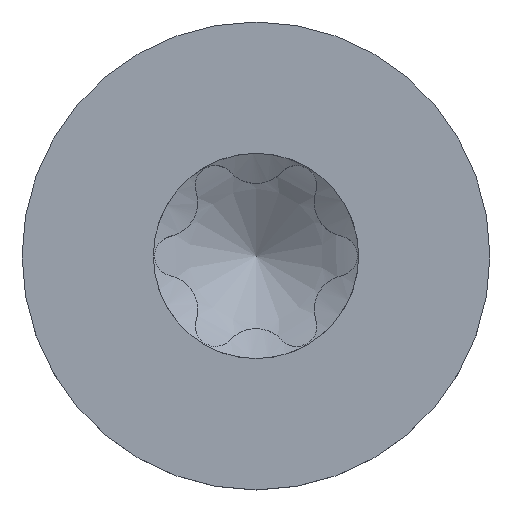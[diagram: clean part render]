
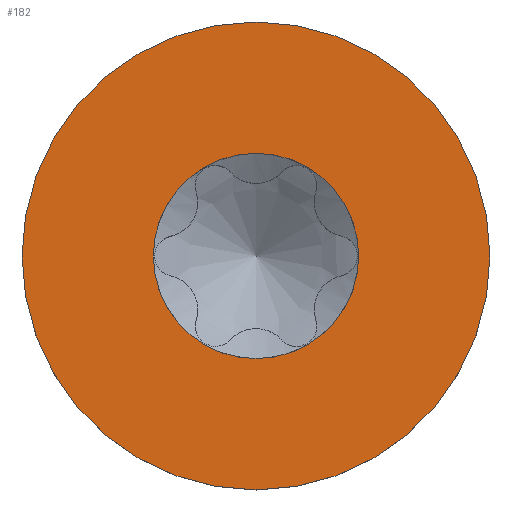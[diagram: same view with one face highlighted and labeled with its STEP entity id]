
A CAD part, top view. The second image highlights one B-rep face of the part: STEP entity #182.
In plain terms, the highlighted planar face has unit normal (0, 0, 1).
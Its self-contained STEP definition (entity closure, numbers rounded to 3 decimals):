
#137=PLANE('',#938);
#145=FACE_BOUND('',#292,.T.);
#146=FACE_BOUND('',#293,.T.);
#182=ADVANCED_FACE('',(#145,#146),#137,.F.);
#292=EDGE_LOOP('',(#400));
#293=EDGE_LOOP('',(#401));
#355=CIRCLE('',#936,0.735);
#356=CIRCLE('',#937,1.675);
#400=ORIENTED_EDGE('',*,*,#743,.F.);
#401=ORIENTED_EDGE('',*,*,#744,.F.);
#653=VERTEX_POINT('',#1932);
#654=VERTEX_POINT('',#1934);
#743=EDGE_CURVE('',#653,#653,#355,.T.);
#744=EDGE_CURVE('',#654,#654,#356,.T.);
#936=AXIS2_PLACEMENT_3D('',#1931,#990,#991);
#937=AXIS2_PLACEMENT_3D('',#1933,#992,#993);
#938=AXIS2_PLACEMENT_3D('',#1935,#994,#995);
#990=DIRECTION('',(0.,0.,1.));
#991=DIRECTION('',(-1.,0.,0.));
#992=DIRECTION('',(0.,0.,-1.));
#993=DIRECTION('',(-1.,0.,0.));
#994=DIRECTION('',(0.,0.,-1.));
#995=DIRECTION('',(-1.,0.,0.));
#1931=CARTESIAN_POINT('',(0.,0.,1.4));
#1932=CARTESIAN_POINT('',(-0.735,0.,1.4));
#1933=CARTESIAN_POINT('',(0.,0.,1.4));
#1934=CARTESIAN_POINT('',(-1.675,0.,1.4));
#1935=CARTESIAN_POINT('',(0.,0.,1.4));
